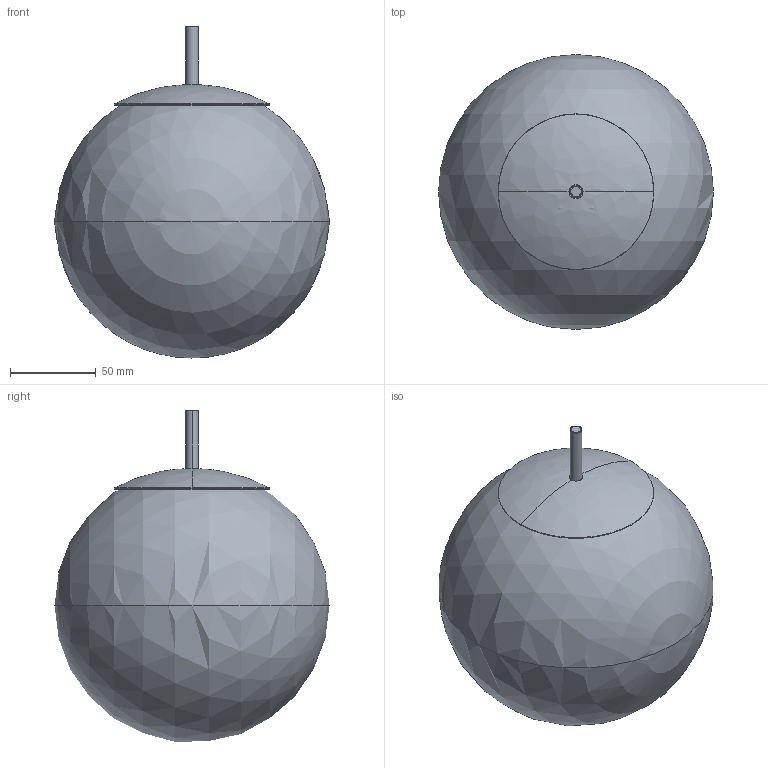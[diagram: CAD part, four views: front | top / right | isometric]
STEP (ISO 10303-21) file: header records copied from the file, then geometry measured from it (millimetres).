
FILE_DESCRIPTION((''),'2;1');
FILE_NAME('CORDINASFERICO','2025-05-13T11:47:32',('elena.baldelli'),(''),'CREO PARAMETRIC BY PTC INC, 2020354','CREO PARAMETRIC BY PTC INC, 2020354','');
FILE_SCHEMA(('CONFIG_CONTROL_DESIGN'));
Length unit declared in the file: millimetre
Products named in the file (1): CORDINASFERICO
Bounding box: 160 x 160 x 193.32 mm (x, y, z)
Surface area: 94964.1 mm2 (no closed solid volume)
Topology: 0 solids, 3 shells, 19 faces, 42 edges, 22 vertices
Faces by surface type: torus 8, bspline 4, sphere 2, cone 2, cylinder 2, plane 1
Entity records: 630 total; most frequent: CARTESIAN_POINT 187, DIRECTION 102, ORIENTED_EDGE 70, AXIS2_PLACEMENT_3D 49, EDGE_CURVE 38, CIRCLE 34, VERTEX_POINT 22, EDGE_LOOP 19
